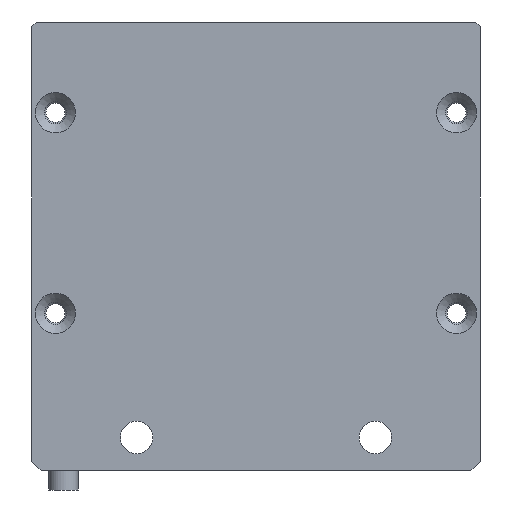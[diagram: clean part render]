
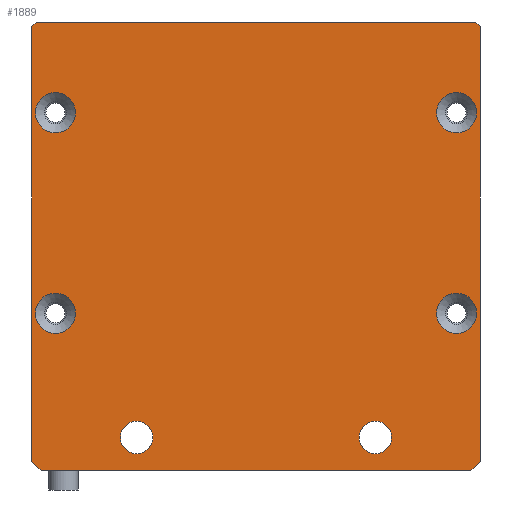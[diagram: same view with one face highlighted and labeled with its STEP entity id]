
A CAD part, front view. The second image highlights one B-rep face of the part: STEP entity #1889.
In plain terms, the highlighted planar face has unit normal (0, -1, 0).
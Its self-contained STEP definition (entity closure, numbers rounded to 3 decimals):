
#15=FACE_BOUND('',#339,.T.);
#16=FACE_BOUND('',#340,.T.);
#17=FACE_BOUND('',#341,.T.);
#18=FACE_BOUND('',#342,.T.);
#19=FACE_BOUND('',#343,.T.);
#20=FACE_BOUND('',#344,.T.);
#170=PLANE('',#2061);
#244=FACE_OUTER_BOUND('',#338,.T.);
#338=EDGE_LOOP('',(#1576,#1577,#1578,#1579,#1580,#1581,#1582,#1583));
#339=EDGE_LOOP('',(#1584,#1585));
#340=EDGE_LOOP('',(#1586,#1587));
#341=EDGE_LOOP('',(#1588,#1589));
#342=EDGE_LOOP('',(#1590,#1591));
#343=EDGE_LOOP('',(#1592,#1593));
#344=EDGE_LOOP('',(#1594,#1595));
#498=LINE('',#3034,#655);
#502=LINE('',#3043,#659);
#506=LINE('',#3052,#663);
#509=LINE('',#3058,#666);
#517=LINE('',#3078,#674);
#518=LINE('',#3079,#675);
#519=LINE('',#3080,#676);
#520=LINE('',#3081,#677);
#655=VECTOR('',#2459,1000.);
#659=VECTOR('',#2465,1000.);
#663=VECTOR('',#2471,1000.);
#666=VECTOR('',#2476,1000.);
#674=VECTOR('',#2496,1000.);
#675=VECTOR('',#2497,1000.);
#676=VECTOR('',#2498,1000.);
#677=VECTOR('',#2499,1000.);
#771=CIRCLE('',#2062,1.7);
#772=CIRCLE('',#2063,1.7);
#773=CIRCLE('',#2064,1.7);
#774=CIRCLE('',#2065,1.7);
#775=CIRCLE('',#2066,2.1);
#776=CIRCLE('',#2067,2.1);
#777=CIRCLE('',#2068,2.1);
#778=CIRCLE('',#2069,2.1);
#779=CIRCLE('',#2070,2.1);
#780=CIRCLE('',#2071,2.1);
#781=CIRCLE('',#2072,2.1);
#782=CIRCLE('',#2073,2.1);
#933=VERTEX_POINT('',#3032);
#934=VERTEX_POINT('',#3033);
#937=VERTEX_POINT('',#3041);
#938=VERTEX_POINT('',#3042);
#941=VERTEX_POINT('',#3050);
#942=VERTEX_POINT('',#3051);
#943=VERTEX_POINT('',#3056);
#944=VERTEX_POINT('',#3057);
#951=VERTEX_POINT('',#3082);
#952=VERTEX_POINT('',#3083);
#953=VERTEX_POINT('',#3086);
#954=VERTEX_POINT('',#3087);
#955=VERTEX_POINT('',#3090);
#956=VERTEX_POINT('',#3091);
#957=VERTEX_POINT('',#3094);
#958=VERTEX_POINT('',#3095);
#959=VERTEX_POINT('',#3098);
#960=VERTEX_POINT('',#3099);
#961=VERTEX_POINT('',#3102);
#962=VERTEX_POINT('',#3103);
#1166=EDGE_CURVE('',#933,#934,#498,.T.);
#1170=EDGE_CURVE('',#937,#938,#502,.T.);
#1174=EDGE_CURVE('',#941,#942,#506,.T.);
#1177=EDGE_CURVE('',#943,#944,#509,.T.);
#1189=EDGE_CURVE('',#934,#937,#517,.T.);
#1190=EDGE_CURVE('',#938,#941,#518,.T.);
#1191=EDGE_CURVE('',#942,#943,#519,.T.);
#1192=EDGE_CURVE('',#944,#933,#520,.T.);
#1193=EDGE_CURVE('',#951,#952,#771,.T.);
#1194=EDGE_CURVE('',#952,#951,#772,.T.);
#1195=EDGE_CURVE('',#953,#954,#773,.T.);
#1196=EDGE_CURVE('',#954,#953,#774,.T.);
#1197=EDGE_CURVE('',#955,#956,#775,.T.);
#1198=EDGE_CURVE('',#956,#955,#776,.T.);
#1199=EDGE_CURVE('',#957,#958,#777,.T.);
#1200=EDGE_CURVE('',#958,#957,#778,.T.);
#1201=EDGE_CURVE('',#959,#960,#779,.T.);
#1202=EDGE_CURVE('',#960,#959,#780,.T.);
#1203=EDGE_CURVE('',#961,#962,#781,.T.);
#1204=EDGE_CURVE('',#962,#961,#782,.T.);
#1576=ORIENTED_EDGE('',*,*,#1189,.T.);
#1577=ORIENTED_EDGE('',*,*,#1170,.T.);
#1578=ORIENTED_EDGE('',*,*,#1190,.T.);
#1579=ORIENTED_EDGE('',*,*,#1174,.T.);
#1580=ORIENTED_EDGE('',*,*,#1191,.T.);
#1581=ORIENTED_EDGE('',*,*,#1177,.T.);
#1582=ORIENTED_EDGE('',*,*,#1192,.T.);
#1583=ORIENTED_EDGE('',*,*,#1166,.T.);
#1584=ORIENTED_EDGE('',*,*,#1193,.F.);
#1585=ORIENTED_EDGE('',*,*,#1194,.F.);
#1586=ORIENTED_EDGE('',*,*,#1195,.F.);
#1587=ORIENTED_EDGE('',*,*,#1196,.F.);
#1588=ORIENTED_EDGE('',*,*,#1197,.F.);
#1589=ORIENTED_EDGE('',*,*,#1198,.F.);
#1590=ORIENTED_EDGE('',*,*,#1199,.F.);
#1591=ORIENTED_EDGE('',*,*,#1200,.F.);
#1592=ORIENTED_EDGE('',*,*,#1201,.F.);
#1593=ORIENTED_EDGE('',*,*,#1202,.F.);
#1594=ORIENTED_EDGE('',*,*,#1203,.F.);
#1595=ORIENTED_EDGE('',*,*,#1204,.F.);
#1889=ADVANCED_FACE('',(#244,#15,#16,#17,#18,#19,#20),#170,.T.);
#2061=AXIS2_PLACEMENT_3D('',#3077,#2494,#2495);
#2062=AXIS2_PLACEMENT_3D('',#3084,#2500,#2501);
#2063=AXIS2_PLACEMENT_3D('',#3085,#2502,#2503);
#2064=AXIS2_PLACEMENT_3D('',#3088,#2504,#2505);
#2065=AXIS2_PLACEMENT_3D('',#3089,#2506,#2507);
#2066=AXIS2_PLACEMENT_3D('',#3092,#2508,#2509);
#2067=AXIS2_PLACEMENT_3D('',#3093,#2510,#2511);
#2068=AXIS2_PLACEMENT_3D('',#3096,#2512,#2513);
#2069=AXIS2_PLACEMENT_3D('',#3097,#2514,#2515);
#2070=AXIS2_PLACEMENT_3D('',#3100,#2516,#2517);
#2071=AXIS2_PLACEMENT_3D('',#3101,#2518,#2519);
#2072=AXIS2_PLACEMENT_3D('',#3104,#2520,#2521);
#2073=AXIS2_PLACEMENT_3D('',#3105,#2522,#2523);
#2459=DIRECTION('',(0.707,0.,-0.707));
#2465=DIRECTION('',(0.707,0.,0.707));
#2471=DIRECTION('',(-0.707,0.,0.707));
#2476=DIRECTION('',(-0.707,0.,-0.707));
#2494=DIRECTION('center_axis',(0.,-1.,0.));
#2495=DIRECTION('ref_axis',(0.,0.,1.));
#2496=DIRECTION('',(1.,0.,0.));
#2497=DIRECTION('',(0.,0.,1.));
#2498=DIRECTION('',(-1.,0.,0.));
#2499=DIRECTION('',(0.,0.,-1.));
#2500=DIRECTION('center_axis',(0.,-1.,0.));
#2501=DIRECTION('ref_axis',(0.,0.,1.));
#2502=DIRECTION('center_axis',(0.,-1.,0.));
#2503=DIRECTION('ref_axis',(0.,0.,1.));
#2504=DIRECTION('center_axis',(0.,-1.,0.));
#2505=DIRECTION('ref_axis',(0.,0.,1.));
#2506=DIRECTION('center_axis',(0.,-1.,0.));
#2507=DIRECTION('ref_axis',(0.,0.,1.));
#2508=DIRECTION('center_axis',(0.,-1.,0.));
#2509=DIRECTION('ref_axis',(0.,0.,1.));
#2510=DIRECTION('center_axis',(0.,-1.,0.));
#2511=DIRECTION('ref_axis',(0.,0.,1.));
#2512=DIRECTION('center_axis',(0.,-1.,0.));
#2513=DIRECTION('ref_axis',(0.,0.,1.));
#2514=DIRECTION('center_axis',(0.,-1.,0.));
#2515=DIRECTION('ref_axis',(0.,0.,1.));
#2516=DIRECTION('center_axis',(0.,-1.,0.));
#2517=DIRECTION('ref_axis',(0.,0.,1.));
#2518=DIRECTION('center_axis',(0.,-1.,0.));
#2519=DIRECTION('ref_axis',(0.,0.,1.));
#2520=DIRECTION('center_axis',(0.,-1.,0.));
#2521=DIRECTION('ref_axis',(0.,0.,1.));
#2522=DIRECTION('center_axis',(0.,-1.,0.));
#2523=DIRECTION('ref_axis',(0.,0.,1.));
#3032=CARTESIAN_POINT('',(-29.677,0.756,-21.579));
#3033=CARTESIAN_POINT('',(-28.677,0.756,-22.579));
#3034=CARTESIAN_POINT('',(-29.177,0.756,-22.079));
#3041=CARTESIAN_POINT('',(16.323,0.756,-22.579));
#3042=CARTESIAN_POINT('',(17.323,0.756,-21.579));
#3043=CARTESIAN_POINT('',(40.323,0.756,1.421));
#3050=CARTESIAN_POINT('',(17.323,0.756,23.921));
#3051=CARTESIAN_POINT('',(16.823,0.756,24.421));
#3052=CARTESIAN_POINT('',(17.073,0.756,24.171));
#3056=CARTESIAN_POINT('',(-29.177,0.756,24.421));
#3057=CARTESIAN_POINT('',(-29.677,0.756,23.921));
#3058=CARTESIAN_POINT('',(-5.927,0.756,47.671));
#3077=CARTESIAN_POINT('Origin',(17.323,0.756,24.421));
#3078=CARTESIAN_POINT('',(17.323,0.756,-22.579));
#3079=CARTESIAN_POINT('',(17.323,0.756,-22.579));
#3080=CARTESIAN_POINT('',(17.323,0.756,24.421));
#3081=CARTESIAN_POINT('',(-29.677,0.756,-22.579));
#3082=CARTESIAN_POINT('',(6.323,0.756,-17.379));
#3083=CARTESIAN_POINT('',(6.323,0.756,-20.779));
#3084=CARTESIAN_POINT('Origin',(6.323,0.756,-19.079));
#3085=CARTESIAN_POINT('Origin',(6.323,0.756,-19.079));
#3086=CARTESIAN_POINT('',(-18.677,0.756,-17.379));
#3087=CARTESIAN_POINT('',(-18.677,0.756,-20.779));
#3088=CARTESIAN_POINT('Origin',(-18.677,0.756,-19.079));
#3089=CARTESIAN_POINT('Origin',(-18.677,0.756,-19.079));
#3090=CARTESIAN_POINT('',(14.823,0.756,17.021));
#3091=CARTESIAN_POINT('',(14.823,0.756,12.821));
#3092=CARTESIAN_POINT('Origin',(14.823,0.756,14.921));
#3093=CARTESIAN_POINT('Origin',(14.823,0.756,14.921));
#3094=CARTESIAN_POINT('',(14.823,0.756,-3.979));
#3095=CARTESIAN_POINT('',(14.823,0.756,-8.179));
#3096=CARTESIAN_POINT('Origin',(14.823,0.756,-6.079));
#3097=CARTESIAN_POINT('Origin',(14.823,0.756,-6.079));
#3098=CARTESIAN_POINT('',(-27.177,0.756,-3.979));
#3099=CARTESIAN_POINT('',(-27.177,0.756,-8.179));
#3100=CARTESIAN_POINT('Origin',(-27.177,0.756,-6.079));
#3101=CARTESIAN_POINT('Origin',(-27.177,0.756,-6.079));
#3102=CARTESIAN_POINT('',(-27.177,0.756,17.021));
#3103=CARTESIAN_POINT('',(-27.177,0.756,12.821));
#3104=CARTESIAN_POINT('Origin',(-27.177,0.756,14.921));
#3105=CARTESIAN_POINT('Origin',(-27.177,0.756,14.921));
